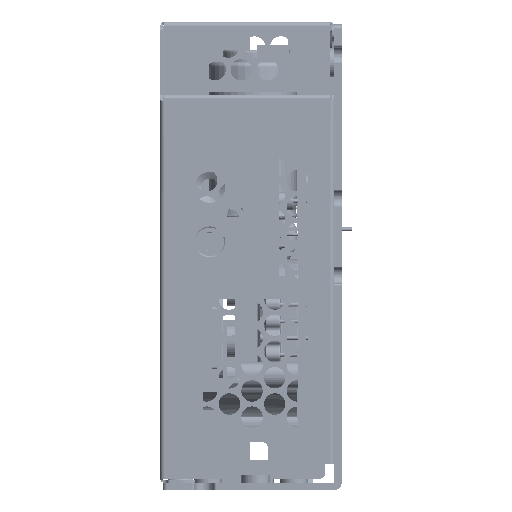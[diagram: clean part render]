
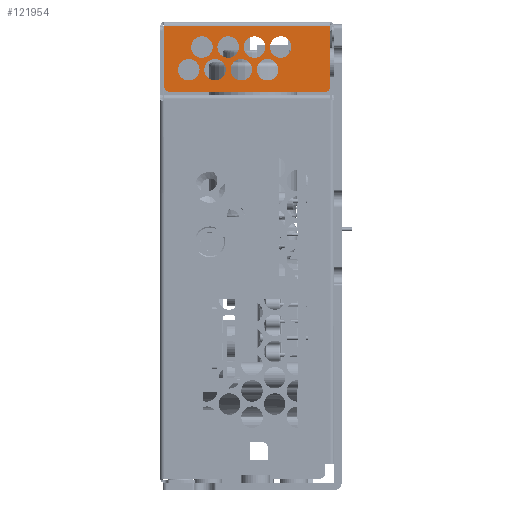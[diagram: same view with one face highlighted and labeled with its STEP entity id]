
A CAD part, left-side view. The second image highlights one B-rep face of the part: STEP entity #121954.
In plain terms, the highlighted planar face has unit normal (-1, 0, 0) as drawn and (0, 1, 0) by its records, which use the part's own axes.
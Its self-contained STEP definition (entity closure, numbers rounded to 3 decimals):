
#103495=DIRECTION('',(0.,0.,-1.));
#103496=VECTOR('',#103495,34.7);
#103497=CARTESIAN_POINT('',(95.,72.,35.6));
#103498=LINE('',#103497,#103496);
#103523=CARTESIAN_POINT('',(82.3,72.,1.9));
#103524=DIRECTION('',(0.,1.,0.));
#103525=DIRECTION('',(0.,0.,-1.));
#103526=AXIS2_PLACEMENT_3D('',#103523,#103524,#103525);
#103528=DIRECTION('',(-1.,0.,0.));
#103529=VECTOR('',#103528,12.4);
#103530=CARTESIAN_POINT('',(94.7,72.,0.9));
#103531=LINE('',#103530,#103529);
#103532=DIRECTION('',(-1.,0.,0.));
#103533=VECTOR('',#103532,0.3);
#103534=CARTESIAN_POINT('',(95.,72.,0.9));
#103535=LINE('',#103534,#103533);
#103536=DIRECTION('',(-1.,0.,0.));
#103537=VECTOR('',#103536,0.129);
#103538=CARTESIAN_POINT('',(95.,72.,35.6));
#103539=LINE('',#103538,#103537);
#103540=DIRECTION('',(1.,0.,0.));
#103541=VECTOR('',#103540,12.571);
#103542=CARTESIAN_POINT('',(82.3,72.,35.6));
#103543=LINE('',#103542,#103541);
#103544=CARTESIAN_POINT('',(82.3,72.,34.6));
#103545=DIRECTION('',(0.,1.,0.));
#103546=DIRECTION('',(-1.,0.,0.));
#103547=AXIS2_PLACEMENT_3D('',#103544,#103545,#103546);
#103549=DIRECTION('',(0.,0.,1.));
#103550=VECTOR('',#103549,32.7);
#103551=CARTESIAN_POINT('',(81.3,72.,1.9));
#103552=LINE('',#103551,#103550);
#103553=CARTESIAN_POINT('',(85.9,72.,6.));
#103554=DIRECTION('',(0.,1.,0.));
#103555=DIRECTION('',(-1.,0.,0.));
#103556=AXIS2_PLACEMENT_3D('',#103553,#103554,#103555);
#103558=CARTESIAN_POINT('',(85.9,72.,6.));
#103559=DIRECTION('',(0.,1.,0.));
#103560=DIRECTION('',(1.,0.,0.));
#103561=AXIS2_PLACEMENT_3D('',#103558,#103559,#103560);
#103563=CARTESIAN_POINT('',(85.9,72.,11.5));
#103564=DIRECTION('',(0.,1.,0.));
#103565=DIRECTION('',(-1.,0.,0.));
#103566=AXIS2_PLACEMENT_3D('',#103563,#103564,#103565);
#103568=CARTESIAN_POINT('',(85.9,72.,11.5));
#103569=DIRECTION('',(0.,1.,0.));
#103570=DIRECTION('',(1.,0.,0.));
#103571=AXIS2_PLACEMENT_3D('',#103568,#103569,#103570);
#103573=CARTESIAN_POINT('',(85.9,72.,17.));
#103574=DIRECTION('',(0.,1.,0.));
#103575=DIRECTION('',(-1.,0.,0.));
#103576=AXIS2_PLACEMENT_3D('',#103573,#103574,#103575);
#103578=CARTESIAN_POINT('',(85.9,72.,17.));
#103579=DIRECTION('',(0.,1.,0.));
#103580=DIRECTION('',(1.,0.,0.));
#103581=AXIS2_PLACEMENT_3D('',#103578,#103579,#103580);
#103583=CARTESIAN_POINT('',(85.9,72.,22.5));
#103584=DIRECTION('',(0.,1.,0.));
#103585=DIRECTION('',(-1.,0.,0.));
#103586=AXIS2_PLACEMENT_3D('',#103583,#103584,#103585);
#103588=CARTESIAN_POINT('',(85.9,72.,22.5));
#103589=DIRECTION('',(0.,1.,0.));
#103590=DIRECTION('',(1.,0.,0.));
#103591=AXIS2_PLACEMENT_3D('',#103588,#103589,#103590);
#103593=CARTESIAN_POINT('',(90.65,72.,8.751));
#103594=DIRECTION('',(0.,1.,0.));
#103595=DIRECTION('',(-1.,0.,0.));
#103596=AXIS2_PLACEMENT_3D('',#103593,#103594,#103595);
#103598=CARTESIAN_POINT('',(90.65,72.,8.751));
#103599=DIRECTION('',(0.,1.,0.));
#103600=DIRECTION('',(1.,0.,0.));
#103601=AXIS2_PLACEMENT_3D('',#103598,#103599,#103600);
#103603=CARTESIAN_POINT('',(90.65,72.,14.251));
#103604=DIRECTION('',(0.,1.,0.));
#103605=DIRECTION('',(-1.,0.,0.));
#103606=AXIS2_PLACEMENT_3D('',#103603,#103604,#103605);
#103608=CARTESIAN_POINT('',(90.65,72.,14.251));
#103609=DIRECTION('',(0.,1.,0.));
#103610=DIRECTION('',(1.,0.,0.));
#103611=AXIS2_PLACEMENT_3D('',#103608,#103609,#103610);
#103613=CARTESIAN_POINT('',(90.65,72.,19.751));
#103614=DIRECTION('',(0.,1.,0.));
#103615=DIRECTION('',(-1.,0.,0.));
#103616=AXIS2_PLACEMENT_3D('',#103613,#103614,#103615);
#103618=CARTESIAN_POINT('',(90.65,72.,19.751));
#103619=DIRECTION('',(0.,1.,0.));
#103620=DIRECTION('',(1.,0.,0.));
#103621=AXIS2_PLACEMENT_3D('',#103618,#103619,#103620);
#103623=CARTESIAN_POINT('',(90.65,72.,25.251));
#103624=DIRECTION('',(0.,1.,0.));
#103625=DIRECTION('',(-1.,0.,0.));
#103626=AXIS2_PLACEMENT_3D('',#103623,#103624,#103625);
#103628=CARTESIAN_POINT('',(90.65,72.,25.251));
#103629=DIRECTION('',(0.,1.,0.));
#103630=DIRECTION('',(1.,0.,0.));
#103631=AXIS2_PLACEMENT_3D('',#103628,#103629,#103630);
#106935=CARTESIAN_POINT('',(94.871,72.,35.6));
#106937=VERTEX_POINT('',#106935);
#106969=CARTESIAN_POINT('',(95.,72.,35.6));
#106970=CARTESIAN_POINT('',(95.,72.,0.9));
#106971=VERTEX_POINT('',#106969);
#106972=VERTEX_POINT('',#106970);
#106977=CARTESIAN_POINT('',(94.7,72.,0.9));
#106978=VERTEX_POINT('',#106977);
#107061=CARTESIAN_POINT('',(82.3,72.,0.9));
#107062=VERTEX_POINT('',#107061);
#107063=CARTESIAN_POINT('',(81.3,72.,1.9));
#107064=VERTEX_POINT('',#107063);
#107069=CARTESIAN_POINT('',(81.3,72.,34.6));
#107070=VERTEX_POINT('',#107069);
#107071=CARTESIAN_POINT('',(82.3,72.,35.6));
#107072=VERTEX_POINT('',#107071);
#107209=CARTESIAN_POINT('',(83.65,72.,6.));
#107210=CARTESIAN_POINT('',(88.15,72.,6.));
#107211=VERTEX_POINT('',#107209);
#107212=VERTEX_POINT('',#107210);
#107217=CARTESIAN_POINT('',(83.65,72.,11.5));
#107218=CARTESIAN_POINT('',(88.15,72.,11.5));
#107219=VERTEX_POINT('',#107217);
#107220=VERTEX_POINT('',#107218);
#107225=CARTESIAN_POINT('',(83.65,72.,17.));
#107226=CARTESIAN_POINT('',(88.15,72.,17.));
#107227=VERTEX_POINT('',#107225);
#107228=VERTEX_POINT('',#107226);
#107233=CARTESIAN_POINT('',(83.65,72.,22.5));
#107234=CARTESIAN_POINT('',(88.15,72.,22.5));
#107235=VERTEX_POINT('',#107233);
#107236=VERTEX_POINT('',#107234);
#107241=CARTESIAN_POINT('',(88.4,72.,8.751));
#107242=CARTESIAN_POINT('',(92.9,72.,8.751));
#107243=VERTEX_POINT('',#107241);
#107244=VERTEX_POINT('',#107242);
#107249=CARTESIAN_POINT('',(88.4,72.,14.251));
#107250=CARTESIAN_POINT('',(92.9,72.,14.251));
#107251=VERTEX_POINT('',#107249);
#107252=VERTEX_POINT('',#107250);
#107257=CARTESIAN_POINT('',(88.4,72.,19.751));
#107258=CARTESIAN_POINT('',(92.9,72.,19.751));
#107259=VERTEX_POINT('',#107257);
#107260=VERTEX_POINT('',#107258);
#107265=CARTESIAN_POINT('',(88.4,72.,25.251));
#107266=CARTESIAN_POINT('',(92.9,72.,25.251));
#107267=VERTEX_POINT('',#107265);
#107268=VERTEX_POINT('',#107266);
#121884=CARTESIAN_POINT('',(95.3,72.,27.355));
#121885=DIRECTION('',(0.,1.,0.));
#121886=DIRECTION('',(0.,0.,1.));
#121887=AXIS2_PLACEMENT_3D('',#121884,#121885,#121886);
#121888=PLANE('',#121887);
#121890=ORIENTED_EDGE('',*,*,#121889,.F.);
#121892=ORIENTED_EDGE('',*,*,#121891,.F.);
#121894=ORIENTED_EDGE('',*,*,#121893,.F.);
#121895=ORIENTED_EDGE('',*,*,#121871,.F.);
#121897=ORIENTED_EDGE('',*,*,#121896,.T.);
#121899=ORIENTED_EDGE('',*,*,#121898,.F.);
#121901=ORIENTED_EDGE('',*,*,#121900,.F.);
#121903=ORIENTED_EDGE('',*,*,#121902,.F.);
#121904=EDGE_LOOP('',(#121890,#121892,#121894,#121895,#121897,#121899,#121901,
#121903));
#121905=FACE_OUTER_BOUND('',#121904,.F.);
#121907=ORIENTED_EDGE('',*,*,#121906,.T.);
#121909=ORIENTED_EDGE('',*,*,#121908,.T.);
#121910=EDGE_LOOP('',(#121907,#121909));
#121911=FACE_BOUND('',#121910,.F.);
#121913=ORIENTED_EDGE('',*,*,#121912,.T.);
#121915=ORIENTED_EDGE('',*,*,#121914,.T.);
#121916=EDGE_LOOP('',(#121913,#121915));
#121917=FACE_BOUND('',#121916,.F.);
#121919=ORIENTED_EDGE('',*,*,#121918,.T.);
#121921=ORIENTED_EDGE('',*,*,#121920,.T.);
#121922=EDGE_LOOP('',(#121919,#121921));
#121923=FACE_BOUND('',#121922,.F.);
#121925=ORIENTED_EDGE('',*,*,#121924,.T.);
#121927=ORIENTED_EDGE('',*,*,#121926,.T.);
#121928=EDGE_LOOP('',(#121925,#121927));
#121929=FACE_BOUND('',#121928,.F.);
#121931=ORIENTED_EDGE('',*,*,#121930,.T.);
#121933=ORIENTED_EDGE('',*,*,#121932,.T.);
#121934=EDGE_LOOP('',(#121931,#121933));
#121935=FACE_BOUND('',#121934,.F.);
#121937=ORIENTED_EDGE('',*,*,#121936,.T.);
#121939=ORIENTED_EDGE('',*,*,#121938,.T.);
#121940=EDGE_LOOP('',(#121937,#121939));
#121941=FACE_BOUND('',#121940,.F.);
#121943=ORIENTED_EDGE('',*,*,#121942,.T.);
#121945=ORIENTED_EDGE('',*,*,#121944,.T.);
#121946=EDGE_LOOP('',(#121943,#121945));
#121947=FACE_BOUND('',#121946,.F.);
#121949=ORIENTED_EDGE('',*,*,#121948,.T.);
#121951=ORIENTED_EDGE('',*,*,#121950,.T.);
#121952=EDGE_LOOP('',(#121949,#121951));
#121953=FACE_BOUND('',#121952,.F.);
#103527=CIRCLE('',#103526,1.);
#103548=CIRCLE('',#103547,1.);
#103557=CIRCLE('',#103556,2.25);
#103562=CIRCLE('',#103561,2.25);
#103567=CIRCLE('',#103566,2.25);
#103572=CIRCLE('',#103571,2.25);
#103577=CIRCLE('',#103576,2.25);
#103582=CIRCLE('',#103581,2.25);
#103587=CIRCLE('',#103586,2.25);
#103592=CIRCLE('',#103591,2.25);
#103597=CIRCLE('',#103596,2.25);
#103602=CIRCLE('',#103601,2.25);
#103607=CIRCLE('',#103606,2.25);
#103612=CIRCLE('',#103611,2.25);
#103617=CIRCLE('',#103616,2.25);
#103622=CIRCLE('',#103621,2.25);
#103627=CIRCLE('',#103626,2.25);
#103632=CIRCLE('',#103631,2.25);
#121871=EDGE_CURVE('',#106971,#106972,#103498,.T.);
#121889=EDGE_CURVE('',#107062,#107064,#103527,.T.);
#121891=EDGE_CURVE('',#106978,#107062,#103531,.T.);
#121893=EDGE_CURVE('',#106972,#106978,#103535,.T.);
#121896=EDGE_CURVE('',#106971,#106937,#103539,.T.);
#121898=EDGE_CURVE('',#107072,#106937,#103543,.T.);
#121900=EDGE_CURVE('',#107070,#107072,#103548,.T.);
#121902=EDGE_CURVE('',#107064,#107070,#103552,.T.);
#121906=EDGE_CURVE('',#107211,#107212,#103557,.T.);
#121908=EDGE_CURVE('',#107212,#107211,#103562,.T.);
#121912=EDGE_CURVE('',#107219,#107220,#103567,.T.);
#121914=EDGE_CURVE('',#107220,#107219,#103572,.T.);
#121918=EDGE_CURVE('',#107227,#107228,#103577,.T.);
#121920=EDGE_CURVE('',#107228,#107227,#103582,.T.);
#121924=EDGE_CURVE('',#107235,#107236,#103587,.T.);
#121926=EDGE_CURVE('',#107236,#107235,#103592,.T.);
#121930=EDGE_CURVE('',#107243,#107244,#103597,.T.);
#121932=EDGE_CURVE('',#107244,#107243,#103602,.T.);
#121936=EDGE_CURVE('',#107251,#107252,#103607,.T.);
#121938=EDGE_CURVE('',#107252,#107251,#103612,.T.);
#121942=EDGE_CURVE('',#107259,#107260,#103617,.T.);
#121944=EDGE_CURVE('',#107260,#107259,#103622,.T.);
#121948=EDGE_CURVE('',#107267,#107268,#103627,.T.);
#121950=EDGE_CURVE('',#107268,#107267,#103632,.T.);
#121954=ADVANCED_FACE('',(#121905,#121911,#121917,#121923,#121929,#121935,
#121941,#121947,#121953),#121888,.T.);
